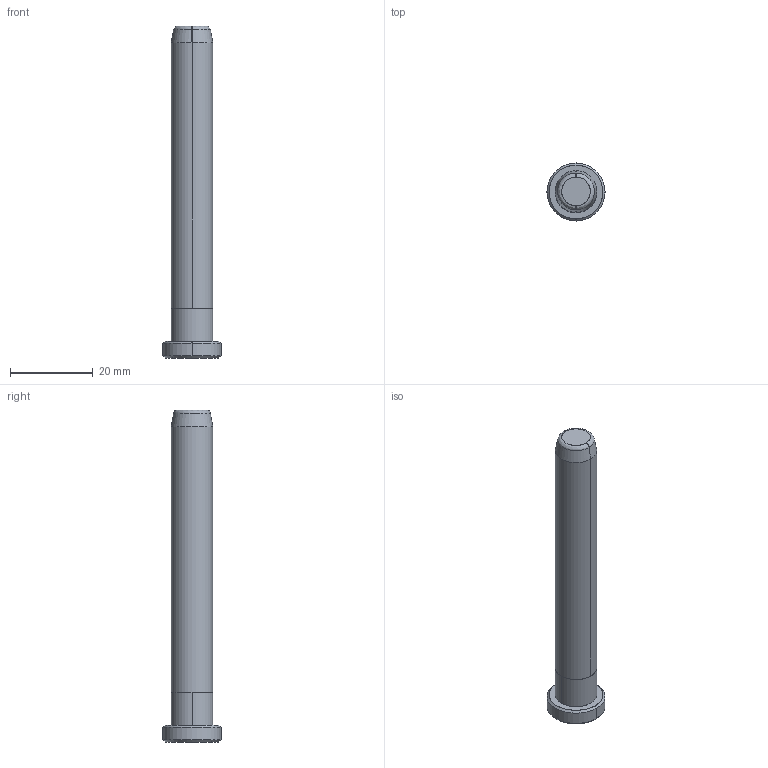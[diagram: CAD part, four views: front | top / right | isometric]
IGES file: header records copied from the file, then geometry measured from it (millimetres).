
Start section: START RECORD GO HERE.
Global section: file name: B80810080.igs; native system: DASSAULT SYSTEMES CATIA V5 R20 - www.3ds.com; preprocessor: CATIA Version 5 Release 20 ; author: Utente; organization: NB04-ASUS; date: 20200419.165558; units: millimetre
Bounding box: 14 x 14 x 80 mm (x, y, z)
Surface area: 2809.9 mm2 (no closed solid volume)
Topology: 0 solids, 0 shells, 20 faces, 80 edges, 80 vertices
Faces by surface type: revolution 16, plane 4
